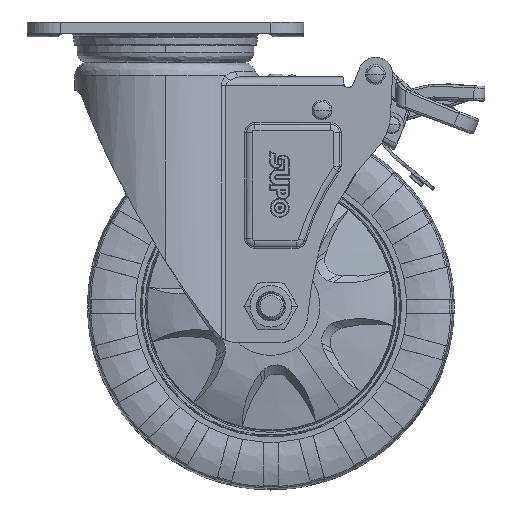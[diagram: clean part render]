
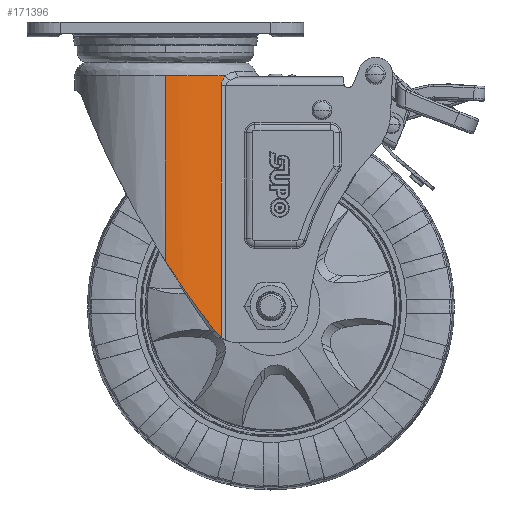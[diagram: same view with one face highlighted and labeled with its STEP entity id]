
A CAD part, top view. The second image highlights one B-rep face of the part: STEP entity #171396.
In plain terms, the highlighted cylindrical face has radius 36.999 mm (diameter 73.998 mm), a partial arc.
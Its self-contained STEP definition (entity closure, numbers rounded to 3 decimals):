
#398 = EDGE_LOOP ( 'NONE', ( #60363, #223900, #134832, #292392, #6005, #271166 ) ) ;
#1540 = CARTESIAN_POINT ( 'NONE',  ( 0., -86.756, 36.999 ) ) ;
#6005 = ORIENTED_EDGE ( 'NONE', *, *, #222346, .F. ) ;
#9482 = EDGE_CURVE ( 'NONE', #40957, #102669, #295912, .T. ) ;
#17580 = CARTESIAN_POINT ( 'NONE',  ( 15.579, -109.176, 33.593 ) ) ;
#25659 = CARTESIAN_POINT ( 'NONE',  ( 0., -118.395, 0. ) ) ;
#26797 = VECTOR ( 'NONE', #214844, 1000. ) ;
#40957 = VERTEX_POINT ( 'NONE', #1540 ) ;
#44927 = CARTESIAN_POINT ( 'NONE',  ( 22.802, -15.1, 29.137 ) ) ;
#46186 = FACE_OUTER_BOUND ( 'NONE', #398, .T. ) ;
#47984 = CARTESIAN_POINT ( 'NONE',  ( 20.28, -115.316, 30.946 ) ) ;
#60363 = ORIENTED_EDGE ( 'NONE', *, *, #9482, .F. ) ;
#66233 = VERTEX_POINT ( 'NONE', #142927 ) ;
#73071 = CARTESIAN_POINT ( 'NONE',  ( 24.175, -11.263, 28.01 ) ) ;
#74621 = CARTESIAN_POINT ( 'NONE',  ( 24.396, -11., 27.817 ) ) ;
#76602 = CARTESIAN_POINT ( 'NONE',  ( 20.28, -115.316, 30.946 ) ) ;
#89678 = CARTESIAN_POINT ( 'NONE',  ( 6.151, -96.031, 36.513 ) ) ;
#91198 = CARTESIAN_POINT ( 'NONE',  ( 20.28, -115.316, 30.946 ) ) ;
#92731 = CARTESIAN_POINT ( 'NONE',  ( 0.25, -87.145, 36.999 ) ) ;
#96676 = B_SPLINE_CURVE_WITH_KNOTS ( 'NONE', 3,
 ( #74621, #73071, #168781, #214274, #259885, #310095, #121613, #217386, #193835, #44927 ),
 .UNSPECIFIED., .F., .F.,
 ( 4, 2, 2, 2, 4 ),
 ( 0., 0.25, 0.5, 0.75, 1. ),
 .UNSPECIFIED. ) ;
#98512 = VERTEX_POINT ( 'NONE', #76602 ) ;
#98990 = AXIS2_PLACEMENT_3D ( 'NONE', #25659, #246851, #195070 ) ;
#101258 = EDGE_CURVE ( 'NONE', #98512, #40957, #304446, .T. ) ;
#102669 = VERTEX_POINT ( 'NONE', #117412 ) ;
#105948 = DIRECTION ( 'NONE',  ( 0., 1., 0. ) ) ;
#116571 = AXIS2_PLACEMENT_3D ( 'NONE', #163463, #129337, #259155 ) ;
#117412 = CARTESIAN_POINT ( 'NONE',  ( 0., -11., 36.999 ) ) ;
#120063 = CARTESIAN_POINT ( 'NONE',  ( 21.9, -117.065, 29.828 ) ) ;
#121613 = CARTESIAN_POINT ( 'NONE',  ( 23.005, -13.55, 28.978 ) ) ;
#126355 = CARTESIAN_POINT ( 'NONE',  ( 0., -118.395, 36.999 ) ) ;
#129156 = B_SPLINE_CURVE_WITH_KNOTS ( 'NONE', 3,
 ( #308514, #146694, #120063, #262963, #145130, #47984 ),
 .UNSPECIFIED., .F., .F.,
 ( 4, 1, 1, 4 ),
 ( 0., 0.333, 0.667, 1. ),
 .UNSPECIFIED. ) ;
#129337 = DIRECTION ( 'NONE',  ( 0., 1., 0. ) ) ;
#133375 = VERTEX_POINT ( 'NONE', #170247 ) ;
#134832 = ORIENTED_EDGE ( 'NONE', *, *, #268184, .F. ) ;
#138656 = CYLINDRICAL_SURFACE ( 'NONE', #98990, 36.999 ) ;
#139807 = CARTESIAN_POINT ( 'NONE',  ( 8.55, -99.489, 36.024 ) ) ;
#142927 = CARTESIAN_POINT ( 'NONE',  ( 22.802, -15.1, 29.137 ) ) ;
#143458 = EDGE_CURVE ( 'NONE', #102669, #133375, #221846, .T. ) ;
#145130 = CARTESIAN_POINT ( 'NONE',  ( 20.527, -115.638, 30.784 ) ) ;
#146694 = CARTESIAN_POINT ( 'NONE',  ( 22.497, -117.536, 29.376 ) ) ;
#163463 = CARTESIAN_POINT ( 'NONE',  ( 0., -11., 0. ) ) ;
#163520 = CARTESIAN_POINT ( 'NONE',  ( 13.211, -105.983, 34.591 ) ) ;
#166081 = VECTOR ( 'NONE', #105948, 1000. ) ;
#168781 = CARTESIAN_POINT ( 'NONE',  ( 23.967, -11.548, 28.188 ) ) ;
#170247 = CARTESIAN_POINT ( 'NONE',  ( 24.396, -11., 27.817 ) ) ;
#171396 = ADVANCED_FACE ( 'NONE', ( #46186 ), #138656, .T. ) ;
#186968 = CARTESIAN_POINT ( 'NONE',  ( 3.589, -92.249, 36.857 ) ) ;
#193835 = CARTESIAN_POINT ( 'NONE',  ( 22.803, -14.706, 29.137 ) ) ;
#195070 = DIRECTION ( 'NONE',  ( 0., 0., 1. ) ) ;
#209606 = EDGE_CURVE ( 'NONE', #66233, #213858, #254637, .T. ) ;
#213595 = CARTESIAN_POINT ( 'NONE',  ( 0., -86.756, 36.999 ) ) ;
#213858 = VERTEX_POINT ( 'NONE', #306700 ) ;
#214274 = CARTESIAN_POINT ( 'NONE',  ( 23.586, -12.16, 28.508 ) ) ;
#214844 = DIRECTION ( 'NONE',  ( 0., -1., 0. ) ) ;
#217386 = CARTESIAN_POINT ( 'NONE',  ( 22.845, -14.311, 29.104 ) ) ;
#221846 = CIRCLE ( 'NONE', #116571, 36.999 ) ;
#222346 = EDGE_CURVE ( 'NONE', #133375, #66233, #96676, .T. ) ;
#223900 = ORIENTED_EDGE ( 'NONE', *, *, #101258, .F. ) ;
#232580 = CARTESIAN_POINT ( 'NONE',  ( 19.512, -114.318, 31.449 ) ) ;
#235661 = CARTESIAN_POINT ( 'NONE',  ( 17.947, -112.305, 32.392 ) ) ;
#246851 = DIRECTION ( 'NONE',  ( 0., 1., 0. ) ) ;
#254637 = LINE ( 'NONE', #288630, #26797 ) ;
#259155 = DIRECTION ( 'NONE',  ( 1., 0., 0. ) ) ;
#259221 = CARTESIAN_POINT ( 'NONE',  ( 10.869, -102.756, 35.394 ) ) ;
#259885 = CARTESIAN_POINT ( 'NONE',  ( 23.413, -12.487, 28.649 ) ) ;
#262963 = CARTESIAN_POINT ( 'NONE',  ( 21.046, -116.245, 30.436 ) ) ;
#268184 = EDGE_CURVE ( 'NONE', #213858, #98512, #129156, .T. ) ;
#271166 = ORIENTED_EDGE ( 'NONE', *, *, #143458, .F. ) ;
#288630 = CARTESIAN_POINT ( 'NONE',  ( 22.802, -64.377, 29.137 ) ) ;
#292392 = ORIENTED_EDGE ( 'NONE', *, *, #209606, .F. ) ;
#295912 = LINE ( 'NONE', #126355, #166081 ) ;
#304446 = B_SPLINE_CURVE_WITH_KNOTS ( 'NONE', 3,
 ( #91198, #232580, #235661, #17580, #163520, #259221, #139807, #89678, #186968, #307848, #92731, #213595 ),
 .UNSPECIFIED., .F., .F.,
 ( 4, 1, 1, 1, 1, 1, 1, 1, 1, 4 ),
 ( 0., 0.04, 0.08, 0.12, 0.16, 0.2, 0.24, 0.28, 0.32, 0.33 ),
 .UNSPECIFIED. ) ;
#306700 = CARTESIAN_POINT ( 'NONE',  ( 22.802, -117.754, 29.137 ) ) ;
#307848 = CARTESIAN_POINT ( 'NONE',  ( 1.493, -89.07, 36.986 ) ) ;
#308514 = CARTESIAN_POINT ( 'NONE',  ( 22.802, -117.754, 29.137 ) ) ;
#310095 = CARTESIAN_POINT ( 'NONE',  ( 23.123, -13.182, 28.884 ) ) ;
